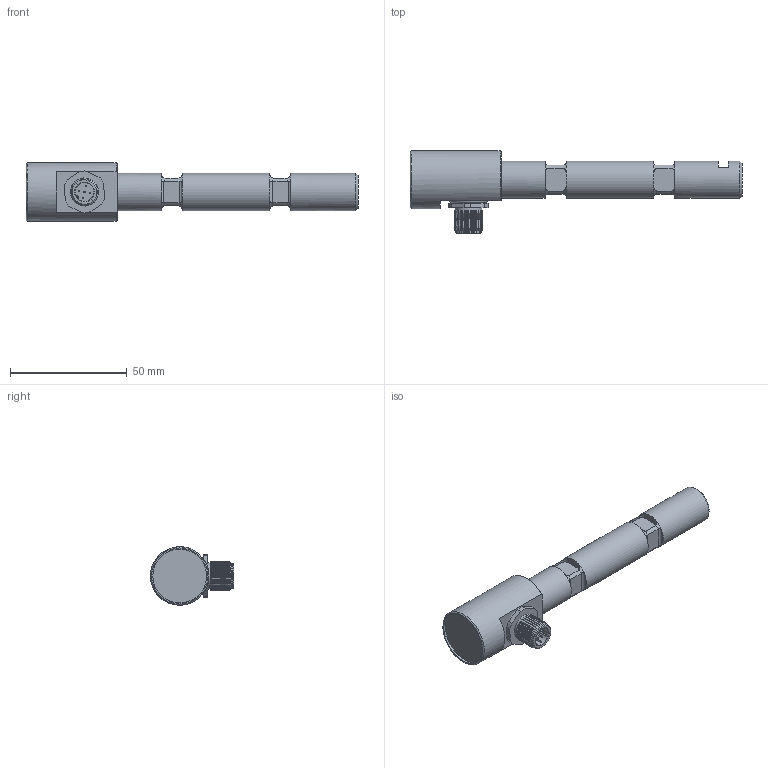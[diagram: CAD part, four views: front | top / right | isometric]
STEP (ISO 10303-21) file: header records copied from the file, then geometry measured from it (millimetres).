
FILE_DESCRIPTION(/* description */ ('Alibre Inc.'),/* implementation_level */ '2;1');
FILE_NAME(/* name */ 'export-AF6B7896-3B5F-497E-A7EE-9046FEE242DF',/* time_stamp */ '2019-09-09T12:49:31+02:00',/* author */ (''),/* organization */ (''),/* preprocessor_version */ 'ST-DEVELOPER v17',/* originating_system */ 'Alibre',/* authorisation */ '');
FILE_SCHEMA (('CONFIG_CONTROL_DESIGN'));
Length unit declared in the file: centimetre
Bounding box: 142 x 35.5 x 25 mm (x, y, z)
Surface area: 163106.7 mm2
Topology: 7 solids, 8 shells, 258 faces, 572 edges, 338 vertices
Faces by surface type: cylinder 89, plane 79, cone 72, torus 18
Full cylindrical faces by diameter (mm): 0.5 x10, 8 x2, 10 x1, 11 x1, 11.5 x1, 12 x21, 13 x2, 14.5 x1, 16 x3, 23 x1, 25 x1
Entity records: 7052 total; most frequent: CARTESIAN_POINT 2274, ORIENTED_EDGE 934, DIRECTION 746, EDGE_CURVE 461, EDGE_LOOP 374, FACE_BOUND 374, AXIS2_PLACEMENT_3D 345, VERTEX_POINT 323
